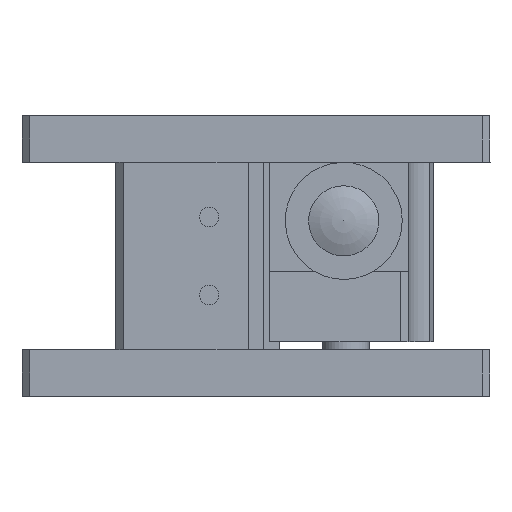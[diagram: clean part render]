
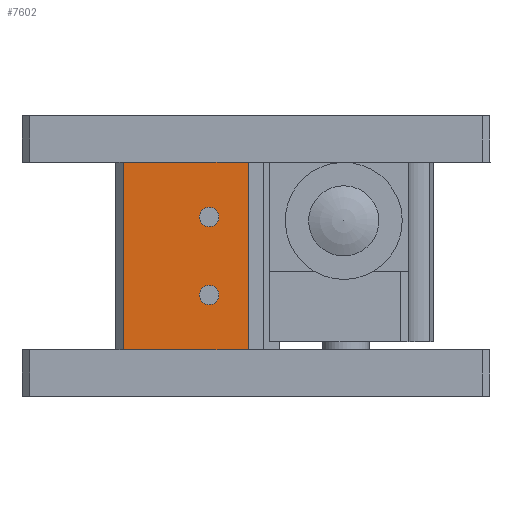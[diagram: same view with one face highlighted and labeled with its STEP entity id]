
A CAD part, left-side view. The second image highlights one B-rep face of the part: STEP entity #7602.
In plain terms, the highlighted planar face has unit normal (-1, 0, 0).
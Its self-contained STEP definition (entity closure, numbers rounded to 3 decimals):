
#327 = VECTOR ( 'NONE', #13275, 1000. ) ;
#516 = CARTESIAN_POINT ( 'NONE',  ( -35.547, 62.816, 41.46 ) ) ;
#888 = ORIENTED_EDGE ( 'NONE', *, *, #11792, .F. ) ;
#1175 = AXIS2_PLACEMENT_3D ( 'NONE', #24393, #6828, #14705 ) ;
#1249 = EDGE_CURVE ( 'NONE', #3752, #22944, #2188, .T. ) ;
#1366 = EDGE_CURVE ( 'NONE', #3752, #4755, #2004, .T. ) ;
#2004 = LINE ( 'NONE', #2243, #327 ) ;
#2188 = LINE ( 'NONE', #16126, #17262 ) ;
#2243 = CARTESIAN_POINT ( 'NONE',  ( -35.547, 46.816, 17.46 ) ) ;
#2528 = DIRECTION ( 'NONE',  ( 0., 1., 0. ) ) ;
#2554 = EDGE_LOOP ( 'NONE', ( #9285, #12119, #14294, #14914 ) ) ;
#2845 = DIRECTION ( 'NONE',  ( 1., 0., 0. ) ) ;
#3604 = CARTESIAN_POINT ( 'NONE',  ( -35.547, 51.816, 24.46 ) ) ;
#3752 = VERTEX_POINT ( 'NONE', #14311 ) ;
#3984 = DIRECTION ( 'NONE',  ( -1., 0., 0. ) ) ;
#4109 = VECTOR ( 'NONE', #22508, 1000. ) ;
#4754 = AXIS2_PLACEMENT_3D ( 'NONE', #20284, #2845, #24419 ) ;
#4755 = VERTEX_POINT ( 'NONE', #9981 ) ;
#6443 = VERTEX_POINT ( 'NONE', #14316 ) ;
#6741 = LINE ( 'NONE', #14616, #4109 ) ;
#6828 = DIRECTION ( 'NONE',  ( -1., 0., 0. ) ) ;
#7552 = EDGE_LOOP ( 'NONE', ( #11825 ) ) ;
#7602 = ADVANCED_FACE ( 'NONE', ( #8261, #14729, #24547 ), #18336, .F. ) ;
#7612 = VERTEX_POINT ( 'NONE', #14334 ) ;
#7943 = EDGE_CURVE ( 'NONE', #4755, #7612, #21789, .T. ) ;
#8261 = FACE_OUTER_BOUND ( 'NONE', #2554, .T. ) ;
#9285 = ORIENTED_EDGE ( 'NONE', *, *, #1249, .T. ) ;
#9981 = CARTESIAN_POINT ( 'NONE',  ( -35.547, 46.816, 17.46 ) ) ;
#10142 = CARTESIAN_POINT ( 'NONE',  ( -35.547, 63.816, 17.46 ) ) ;
#10450 = EDGE_LOOP ( 'NONE', ( #888 ) ) ;
#10526 = VECTOR ( 'NONE', #2528, 1000. ) ;
#11792 = EDGE_CURVE ( 'NONE', #6443, #6443, #12276, .T. ) ;
#11825 = ORIENTED_EDGE ( 'NONE', *, *, #21972, .F. ) ;
#12119 = ORIENTED_EDGE ( 'NONE', *, *, #20735, .T. ) ;
#12276 = CIRCLE ( 'NONE', #1175, 1.25 ) ;
#13275 = DIRECTION ( 'NONE',  ( 0., 0., -1. ) ) ;
#14294 = ORIENTED_EDGE ( 'NONE', *, *, #7943, .F. ) ;
#14311 = CARTESIAN_POINT ( 'NONE',  ( -35.547, 46.816, 41.46 ) ) ;
#14316 = CARTESIAN_POINT ( 'NONE',  ( -35.547, 53.066, 34.46 ) ) ;
#14334 = CARTESIAN_POINT ( 'NONE',  ( -35.547, 62.816, 17.46 ) ) ;
#14446 = AXIS2_PLACEMENT_3D ( 'NONE', #3604, #3984, #21570 ) ;
#14616 = CARTESIAN_POINT ( 'NONE',  ( -35.547, 62.816, 17.46 ) ) ;
#14705 = DIRECTION ( 'NONE',  ( 0., 1., 0. ) ) ;
#14729 = FACE_BOUND ( 'NONE', #10450, .T. ) ;
#14914 = ORIENTED_EDGE ( 'NONE', *, *, #1366, .F. ) ;
#15580 = VERTEX_POINT ( 'NONE', #19434 ) ;
#16126 = CARTESIAN_POINT ( 'NONE',  ( -35.547, 63.816, 41.46 ) ) ;
#16385 = DIRECTION ( 'NONE',  ( 0., 1., 0. ) ) ;
#17262 = VECTOR ( 'NONE', #16385, 1000. ) ;
#17759 = CIRCLE ( 'NONE', #14446, 1.25 ) ;
#18336 = PLANE ( 'NONE',  #4754 ) ;
#19434 = CARTESIAN_POINT ( 'NONE',  ( -35.547, 53.066, 24.46 ) ) ;
#20284 = CARTESIAN_POINT ( 'NONE',  ( -35.547, 63.816, 17.46 ) ) ;
#20735 = EDGE_CURVE ( 'NONE', #22944, #7612, #6741, .T. ) ;
#21570 = DIRECTION ( 'NONE',  ( 0., 1., 0. ) ) ;
#21789 = LINE ( 'NONE', #10142, #10526 ) ;
#21972 = EDGE_CURVE ( 'NONE', #15580, #15580, #17759, .T. ) ;
#22508 = DIRECTION ( 'NONE',  ( 0., 0., -1. ) ) ;
#22944 = VERTEX_POINT ( 'NONE', #516 ) ;
#24393 = CARTESIAN_POINT ( 'NONE',  ( -35.547, 51.816, 34.46 ) ) ;
#24419 = DIRECTION ( 'NONE',  ( 0., -1., 0. ) ) ;
#24547 = FACE_BOUND ( 'NONE', #7552, .T. ) ;
